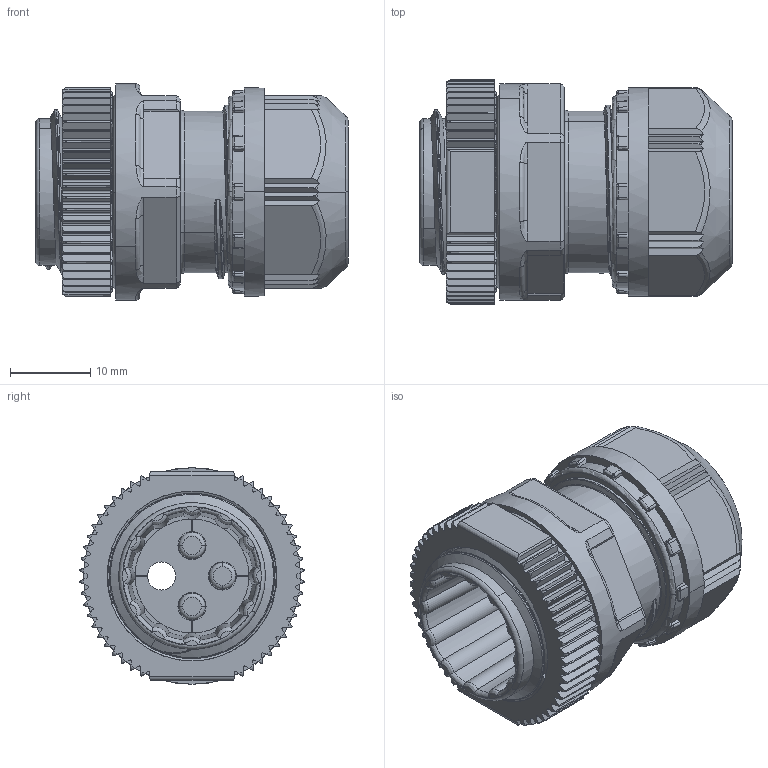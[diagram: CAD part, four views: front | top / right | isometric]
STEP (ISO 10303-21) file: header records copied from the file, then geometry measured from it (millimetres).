
FILE_DESCRIPTION(('Creo Elements/Direct Modeling STEP Export'),'2;1');
FILE_NAME('H11-0008-CL901-02_OA-W16-0334RS.stp','2021-11-30T14:04:02',(''),(''),'Creo Elements/Direct Modeling STEP processor for AP214 (Solid Model)','Creo Elements/Direct Modeling 20.3B 05-Dec-2020 (C) Parametric Technology GmbH','');
FILE_SCHEMA(('AUTOMOTIVE_DESIGN { 1 0 10303 214 1 1 1 1 }'));
Length unit declared in the file: millimetre
Products named in the file (5): BB-0334S_1; LN-CTG16P; Nipple; Rubber bushing; OA-W16-0334RS
Assembly tree (6 placements, depth 2):
  OA-W16-0334RS
    Rubber bushing
    Nipple
    LN-CTG16P
    BB-0334S_1  x3
Bounding box: 38.98 x 27.96 x 27 mm (x, y, z)
Volume: 13561.8 mm3; surface area: 11709.3 mm2
Topology: 6 solids, 6 shells, 1193 faces, 3536 edges, 2327 vertices
Faces by surface type: plane 395, cylinder 381, bspline 198, torus 126, sphere 50, cone 43
Entity records: 61121 total; most frequent: CARTESIAN_POINT 33630, ORIENTED_EDGE 6344, DIRECTION 4802, EDGE_CURVE 3172, VERTEX_POINT 2043, AXIS2_PLACEMENT_3D 1759, VECTOR 1284, LINE 1284
